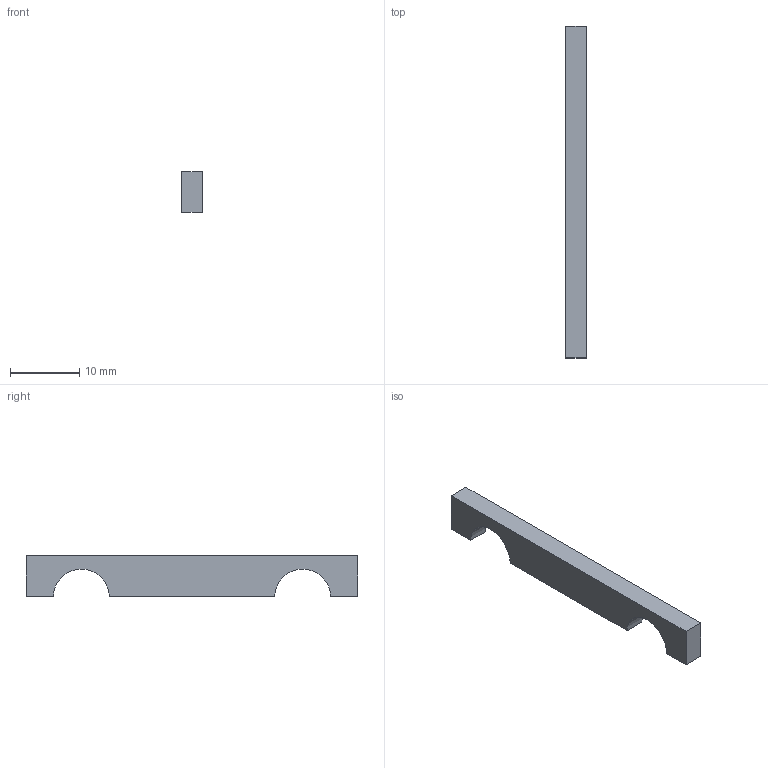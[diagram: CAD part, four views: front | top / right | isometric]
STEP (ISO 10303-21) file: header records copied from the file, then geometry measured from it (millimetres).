
FILE_DESCRIPTION(('Open CASCADE Model'),'2;1');
FILE_NAME('Open CASCADE Shape Model','2026-11-20T22:44:44',('Author'),( 'Open CASCADE'),'Open CASCADE STEP processor 7.8','Open CASCADE 7.8' ,'Unknown');
FILE_SCHEMA(('AUTOMOTIVE_DESIGN { 1 0 10303 214 1 1 1 1 }'));
Length unit declared in the file: millimetre
Products named in the file (1): Open CASCADE STEP translator 7.8 15
Bounding box: 3 x 48 x 5.9 mm (x, y, z)
Volume: 699.9 mm3; surface area: 816.5 mm2
Topology: 1 solids, 1 shells, 12 faces, 30 edges, 20 vertices
Faces by surface type: plane 8, cylinder 4
Entity records: 762 total; most frequent: DIRECTION 124, CARTESIAN_POINT 123, LINE 74, VECTOR 74, ORIENTED_EDGE 60, PCURVE 60, DEFINITIONAL_REPRESENTATION 60, EDGE_CURVE 30
